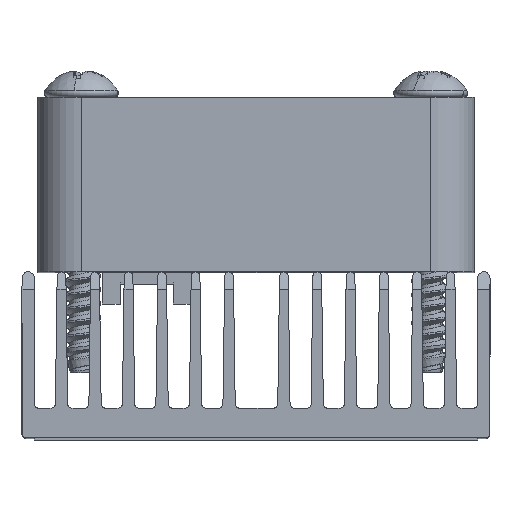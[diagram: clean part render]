
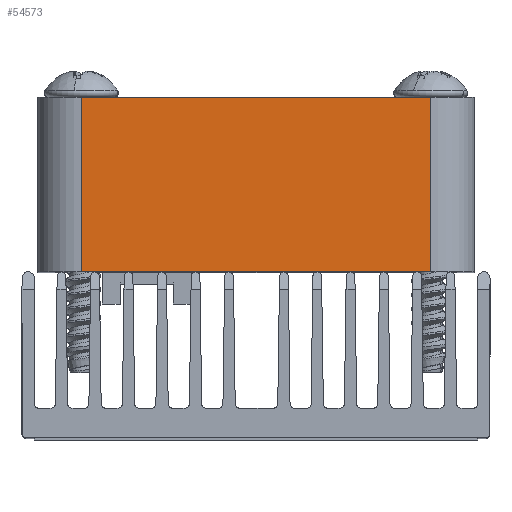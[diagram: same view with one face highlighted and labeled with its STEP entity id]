
A CAD part, top view. The second image highlights one B-rep face of the part: STEP entity #54573.
In plain terms, the highlighted planar face has unit normal (0, 0, 1).
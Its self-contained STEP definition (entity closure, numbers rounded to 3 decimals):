
#2562 = CARTESIAN_POINT ( 'NONE',  ( -10., 9.5, 12.5 ) ) ;
#3343 = VECTOR ( 'NONE', #5304, 1000. ) ;
#3638 = EDGE_CURVE ( 'NONE', #49125, #23788, #36846, .T. ) ;
#3797 = VECTOR ( 'NONE', #61616, 1000. ) ;
#3892 = LINE ( 'NONE', #41423, #3797 ) ;
#5304 = DIRECTION ( 'NONE',  ( 1., 0., 0. ) ) ;
#6037 = PLANE ( 'NONE',  #20735 ) ;
#7497 = CARTESIAN_POINT ( 'NONE',  ( 10., 9.5, 12.5 ) ) ;
#11648 = CARTESIAN_POINT ( 'NONE',  ( 10., 19.5, 12.5 ) ) ;
#14044 = EDGE_LOOP ( 'NONE', ( #38695, #58021, #19798, #43639 ) ) ;
#18158 = CARTESIAN_POINT ( 'NONE',  ( -10., 19.5, 12.5 ) ) ;
#19798 = ORIENTED_EDGE ( 'NONE', *, *, #61079, .F. ) ;
#20735 = AXIS2_PLACEMENT_3D ( 'NONE', #11648, #32091, #57552 ) ;
#21794 = VERTEX_POINT ( 'NONE', #26671 ) ;
#23201 = LINE ( 'NONE', #43296, #3343 ) ;
#23788 = VERTEX_POINT ( 'NONE', #7497 ) ;
#26306 = DIRECTION ( 'NONE',  ( 1., 0., 0. ) ) ;
#26671 = CARTESIAN_POINT ( 'NONE',  ( 10., 19.5, 12.5 ) ) ;
#27169 = FACE_OUTER_BOUND ( 'NONE', #14044, .T. ) ;
#29327 = VECTOR ( 'NONE', #38239, 1000. ) ;
#32091 = DIRECTION ( 'NONE',  ( 0., 0., -1. ) ) ;
#33985 = VERTEX_POINT ( 'NONE', #42338 ) ;
#36846 = LINE ( 'NONE', #40825, #61183 ) ;
#38239 = DIRECTION ( 'NONE',  ( 0., -1., 0. ) ) ;
#38695 = ORIENTED_EDGE ( 'NONE', *, *, #3638, .T. ) ;
#40825 = CARTESIAN_POINT ( 'NONE',  ( 10., 9.5, 12.5 ) ) ;
#41423 = CARTESIAN_POINT ( 'NONE',  ( 10., 19.5, 12.5 ) ) ;
#42338 = CARTESIAN_POINT ( 'NONE',  ( -10., 19.5, 12.5 ) ) ;
#43296 = CARTESIAN_POINT ( 'NONE',  ( 10., 19.5, 12.5 ) ) ;
#43639 = ORIENTED_EDGE ( 'NONE', *, *, #58337, .T. ) ;
#49125 = VERTEX_POINT ( 'NONE', #2562 ) ;
#54573 = ADVANCED_FACE ( 'NONE', ( #27169 ), #6037, .F. ) ;
#54852 = EDGE_CURVE ( 'NONE', #21794, #23788, #3892, .T. ) ;
#57552 = DIRECTION ( 'NONE',  ( -1., 0., 0. ) ) ;
#58021 = ORIENTED_EDGE ( 'NONE', *, *, #54852, .F. ) ;
#58110 = LINE ( 'NONE', #18158, #29327 ) ;
#58337 = EDGE_CURVE ( 'NONE', #33985, #49125, #58110, .T. ) ;
#61079 = EDGE_CURVE ( 'NONE', #33985, #21794, #23201, .T. ) ;
#61183 = VECTOR ( 'NONE', #26306, 1000. ) ;
#61616 = DIRECTION ( 'NONE',  ( 0., -1., 0. ) ) ;
